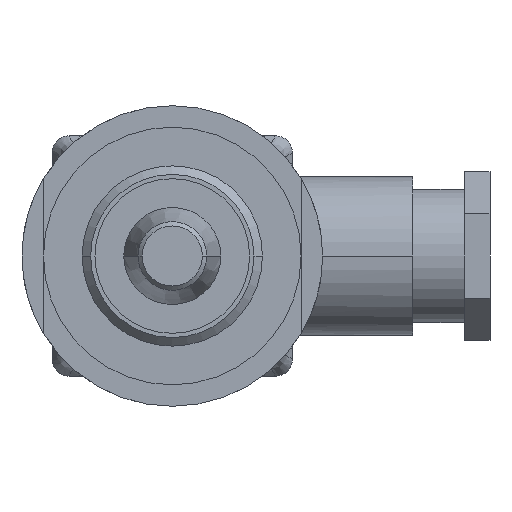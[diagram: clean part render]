
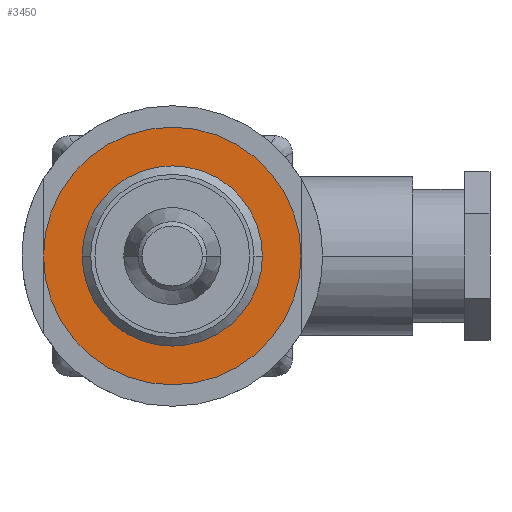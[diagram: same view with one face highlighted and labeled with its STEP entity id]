
A CAD part, front view. The second image highlights one B-rep face of the part: STEP entity #3450.
In plain terms, the highlighted planar face has unit normal (0, -1, 0).
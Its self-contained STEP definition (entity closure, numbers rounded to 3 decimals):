
#1155=CARTESIAN_POINT('',(0.,474.5,0.));
#1156=DIRECTION('',(0.,1.,0.));
#1157=DIRECTION('',(-1.,0.,0.));
#1158=AXIS2_PLACEMENT_3D('',#1155,#1156,#1157);
#1160=CARTESIAN_POINT('',(0.,474.5,0.));
#1161=DIRECTION('',(0.,1.,0.));
#1162=DIRECTION('',(1.,0.,0.));
#1163=AXIS2_PLACEMENT_3D('',#1160,#1161,#1162);
#1165=CARTESIAN_POINT('',(0.,474.5,0.));
#1166=DIRECTION('',(0.,-1.,0.));
#1167=DIRECTION('',(1.,0.,0.));
#1168=AXIS2_PLACEMENT_3D('',#1165,#1166,#1167);
#1179=CARTESIAN_POINT('',(0.,474.5,0.));
#1180=DIRECTION('',(0.,-1.,0.));
#1181=DIRECTION('',(-1.,0.,0.));
#1182=AXIS2_PLACEMENT_3D('',#1179,#1180,#1181);
#1558=CARTESIAN_POINT('',(-15.,474.5,0.));
#1559=CARTESIAN_POINT('',(15.,474.5,0.));
#1560=VERTEX_POINT('',#1558);
#1561=VERTEX_POINT('',#1559);
#1562=CARTESIAN_POINT('',(10.5,474.5,0.));
#1563=CARTESIAN_POINT('',(-10.5,474.5,0.));
#1564=VERTEX_POINT('',#1562);
#1565=VERTEX_POINT('',#1563);
#3435=CARTESIAN_POINT('',(0.,474.5,0.));
#3436=DIRECTION('',(0.,1.,0.));
#3437=DIRECTION('',(-1.,0.,0.));
#3438=AXIS2_PLACEMENT_3D('',#3435,#3436,#3437);
#3439=PLANE('',#3438);
#3440=ORIENTED_EDGE('',*,*,#3429,.T.);
#3441=ORIENTED_EDGE('',*,*,#3415,.T.);
#3442=EDGE_LOOP('',(#3440,#3441));
#3443=FACE_OUTER_BOUND('',#3442,.F.);
#3445=ORIENTED_EDGE('',*,*,#3444,.T.);
#3447=ORIENTED_EDGE('',*,*,#3446,.T.);
#3448=EDGE_LOOP('',(#3445,#3447));
#3449=FACE_BOUND('',#3448,.F.);
#1159=CIRCLE('',#1158,15.);
#1164=CIRCLE('',#1163,15.);
#1169=CIRCLE('',#1168,10.5);
#1183=CIRCLE('',#1182,10.5);
#3415=EDGE_CURVE('',#1561,#1560,#1164,.T.);
#3429=EDGE_CURVE('',#1560,#1561,#1159,.T.);
#3444=EDGE_CURVE('',#1564,#1565,#1169,.T.);
#3446=EDGE_CURVE('',#1565,#1564,#1183,.T.);
#3450=ADVANCED_FACE('',(#3443,#3449),#3439,.F.);
